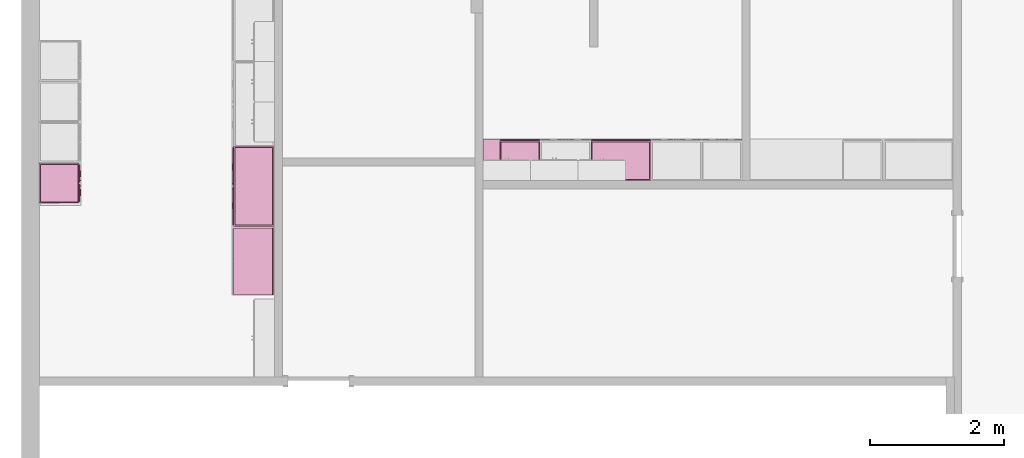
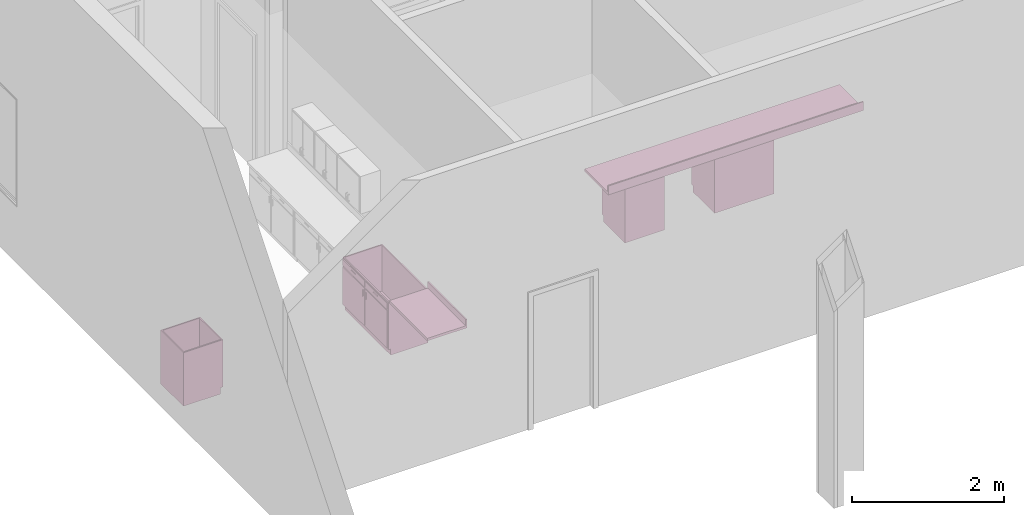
# One storey, part 38 of 45: 6 furnishings, 1 opening.
"""IFC2X3 building model written with IfcOpenShell, lengths in metres."""

from ifc_helpers import new_model, entity, si_unit, converted_unit, frame, frame_2d, origin, origin_2d_with_axis, place, context, project, spatial, polyline, circle_curve, parameter, trimmed, segment, composite_curve, rectangle, outline, extrude, face_set, surface_model, source, transform, mapped, type_object, type_shapes, element, save


model = new_model("IFC2X3")

# Units and contexts
model_context = context("Model", 3, precision=1e-09, world=origin())
plan_context = context("Plan", 3, precision=1e-09, world=origin())
ifc_project = project(units=[si_unit("LENGTHUNIT", "METRE"), si_unit("AREAUNIT", "SQUARE_METRE"), si_unit("VOLUMEUNIT", "CUBIC_METRE"), converted_unit("PLANEANGLEUNIT", "DEGREE", entity("IfcRatioMeasure", 0.01745329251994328), si_unit("PLANEANGLEUNIT", "RADIAN"), dimensions=[0, 0, 0, 0, 0, 0, 0]), si_unit("TIMEUNIT", "SECOND")], contexts=[model_context, plan_context])

# Site, building, storey, space
site_placement = place(None, origin())
site = spatial("IfcSite", under=ifc_project, at=site_placement, Name="Default", CompositionType="ELEMENT")
building_placement = place(site_placement, origin())
building = spatial("IfcBuilding", under=site, at=building_placement, CompositionType="ELEMENT")
storey_placement = place(building_placement, frame((0.0, 0.0, 4.570000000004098)))
storey = spatial("IfcBuildingStorey", under=building, at=storey_placement, Name="Second Floor", CompositionType="ELEMENT", Elevation=4.570000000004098)
space_1_placement = place(storey_placement, origin())
space_1 = spatial("IfcSpace", under=storey, at=space_1_placement, Name="2C17", CompositionType="ELEMENT", InteriorOrExteriorSpace="INTERNAL")

# Furnishing
furniture_type_1 = type_object("IfcFurnitureType", Name="1200mm", AssemblyPlace="NOTDEFINED")
shared_shape_1 = source(origin(), model_context, "Body", "SurfaceModel", [
    surface_model("IfcFaceBasedSurfaceModel", [(1.180949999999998, 0.04445000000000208, 0.86000000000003), (1.180949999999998, 0.04445000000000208, 0.09999999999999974), (0.01905000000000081, 0.04445000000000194, 0.09999999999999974), (0.01905000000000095, 0.04445000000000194, 0.86000000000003), (1.2, 0.02540000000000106, 0.8600000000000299), (0.0, 0.02540000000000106, 0.8600000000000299), (1.2, 0.02540000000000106, 0.09999999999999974), (0.0, 0.02540000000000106, 0.0999999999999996), (0.01905000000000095, 0.6063499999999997, 0.86000000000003), (0.01905000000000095, 0.6063499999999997, 0.09999999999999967), (0.01905000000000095, 0.06040000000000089, 0.09999999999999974), (0.0, 0.6254000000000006, 0.8600000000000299), (0.0, 0.6254000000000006, 0.0), (0.0, 0.06040000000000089, 0.0), (0.0, 0.06040000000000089, 0.09999999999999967), (1.180949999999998, 0.6063499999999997, 0.86000000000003), (1.180949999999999, 0.6063499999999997, 0.09999999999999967), (1.2, 0.6254000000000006, 0.8600000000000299), (1.2, 0.6254000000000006, 0.0), (1.180949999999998, 0.06040000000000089, 0.09999999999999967), (1.2, 0.06040000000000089, 0.09999999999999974), (1.2, 0.06040000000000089, 0.0), (0.3603250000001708, 0.0, 0.8155500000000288), (0.3603250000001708, 0.0, 0.8028500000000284), (0.258725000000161, 0.0, 0.8028500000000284), (0.258725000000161, 0.0, 0.8155500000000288), (0.9412750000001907, 0.0, 0.8155500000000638), (0.9412750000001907, 0.0, 0.8028500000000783), (0.8396750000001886, 0.0, 0.8028500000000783), (0.8396750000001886, 0.0, 0.8155500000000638), (0.5650750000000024, 0.0, 0.6822000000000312), (0.5650750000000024, 0.0, 0.5806000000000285), (0.5523750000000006, 0.0, 0.5806000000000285), (0.5523750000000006, 0.0, 0.6822000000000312), (0.6476249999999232, 0.0, 0.6822000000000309), (0.6476249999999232, 0.0, 0.5806000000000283), (0.6349249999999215, 0.0, 0.5806000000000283), (0.6349249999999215, 0.0, 0.6822000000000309), (0.3603250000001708, 0.01270000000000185, 0.8155500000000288), (0.3603250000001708, 0.01270000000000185, 0.8028500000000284), (0.2587250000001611, 0.01270000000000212, 0.8028500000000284), (0.2587250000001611, 0.01270000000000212, 0.8155500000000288), (0.9412750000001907, 0.01269999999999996, 0.8155500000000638), (0.9412750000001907, 0.01269999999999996, 0.8028500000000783), (0.8396750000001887, 0.01270000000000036, 0.8028500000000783), (0.8396750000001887, 0.01270000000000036, 0.8155500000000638), (0.5650750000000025, 0.01270000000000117, 0.6822000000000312), (0.5650750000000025, 0.01270000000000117, 0.5806000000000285), (0.5523750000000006, 0.01270000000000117, 0.5806000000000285), (0.5523750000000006, 0.01270000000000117, 0.6822000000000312), (0.6476249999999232, 0.0127000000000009, 0.6822000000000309), (0.6476249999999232, 0.0127000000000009, 0.5806000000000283), (0.6349249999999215, 0.0127000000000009, 0.5806000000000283), (0.6349249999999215, 0.0127000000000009, 0.6822000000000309), (0.5904749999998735, 0.01270000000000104, 0.8409500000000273), (0.5904749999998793, 0.01270000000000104, 0.7393500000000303), (0.01905000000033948, 0.0127000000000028, 0.7393500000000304), (0.01905000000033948, 0.0127000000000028, 0.8409500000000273), (1.180950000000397, 0.01269999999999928, 0.8409500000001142), (1.180950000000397, 0.01269999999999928, 0.7393500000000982), (0.6095249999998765, 0.01270000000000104, 0.7393500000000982), (0.6095249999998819, 0.01270000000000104, 0.8409500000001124), (0.5904749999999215, 0.01270000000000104, 0.7203000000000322), (0.5904749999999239, 0.01270000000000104, 0.1190499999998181), (0.01905000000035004, 0.0127000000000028, 0.1190499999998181), (0.01905000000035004, 0.0127000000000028, 0.7203000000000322), (1.180950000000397, 0.01269999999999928, 0.7203000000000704), (1.180950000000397, 0.01269999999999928, 0.1190499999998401), (0.6095249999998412, 0.01270000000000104, 0.1190499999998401), (0.6095249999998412, 0.01270000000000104, 0.7203000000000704), (0.5904749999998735, 0.02540000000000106, 0.8409500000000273), (0.5904749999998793, 0.02540000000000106, 0.7393500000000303), (0.01905000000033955, 0.02540000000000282, 0.7393500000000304), (0.01905000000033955, 0.02540000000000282, 0.8409500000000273), (1.180950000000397, 0.02539999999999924, 0.8409500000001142), (1.180950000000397, 0.02539999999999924, 0.7393500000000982), (0.6095249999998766, 0.025400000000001, 0.7393500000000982), (0.6095249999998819, 0.025400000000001, 0.8409500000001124), (0.5904749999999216, 0.02540000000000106, 0.7203000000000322), (0.5904749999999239, 0.02540000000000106, 0.1190499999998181), (0.01905000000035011, 0.02540000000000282, 0.1190499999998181), (0.01905000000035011, 0.02540000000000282, 0.7203000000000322), (1.180950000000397, 0.02539999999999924, 0.7203000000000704), (1.180950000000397, 0.02539999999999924, 0.1190499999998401), (0.6095249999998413, 0.025400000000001, 0.1190499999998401), (0.6095249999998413, 0.025400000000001, 0.7203000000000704), (1.180949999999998, 0.6063499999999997, 0.1190499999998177), (1.180949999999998, 0.04445000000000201, 0.1190499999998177), (0.01905000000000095, 0.04445000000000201, 0.1190499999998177), (0.01905000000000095, 0.6063499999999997, 0.1190499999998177), (1.180949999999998, 0.6063499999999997, 0.09999999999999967), (1.180949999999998, 0.04445000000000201, 0.09999999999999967), (0.01905000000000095, 0.04445000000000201, 0.09999999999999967)], [face_set([[[0, 1, 2, 3]], [[0, 4, 5, 3]], [[4, 6, 7, 5]], [[2, 1, 6, 7]], [[3, 8, 9, 10, 2]], [[5, 11, 8, 3]], [[7, 5, 11, 12, 13, 14]], [[2, 7, 14, 10]], [[8, 15, 16, 9]], [[11, 17, 15, 8]], [[12, 11, 17, 18]], [[1, 19, 16, 15, 0]], [[0, 15, 17, 4]], [[4, 6, 20, 21, 18, 17]], [[6, 1, 19, 20]], [[10, 9, 16, 19]], [[18, 21, 13, 12]], [[13, 14, 10, 19, 20, 21]]]), face_set([[[22, 23, 24, 25]], [[26, 27, 28, 29]], [[30, 31, 32, 33]], [[34, 35, 36, 37]], [[38, 39, 40, 41]], [[42, 43, 44, 45]], [[46, 47, 48, 49]], [[50, 51, 52, 53]], [[25, 41, 38, 22]], [[24, 40, 41, 25]], [[23, 24, 40, 39]], [[22, 23, 39, 38]], [[29, 45, 42, 26]], [[28, 44, 45, 29]], [[27, 28, 44, 43]], [[26, 27, 43, 42]], [[33, 49, 46, 30]], [[32, 48, 49, 33]], [[31, 32, 48, 47]], [[30, 31, 47, 46]], [[37, 53, 50, 34]], [[36, 52, 53, 37]], [[35, 36, 52, 51]], [[34, 35, 51, 50]]]), face_set([[[54, 55, 56, 57]], [[58, 59, 60, 61]], [[62, 63, 64, 65]], [[66, 67, 68, 69]], [[70, 71, 72, 73]], [[74, 75, 76, 77]], [[78, 79, 80, 81]], [[82, 83, 84, 85]], [[57, 73, 70, 54]], [[56, 57, 73, 72]], [[55, 56, 72, 71]], [[54, 55, 71, 70]], [[61, 77, 74, 58]], [[60, 76, 77, 61]], [[59, 60, 76, 75]], [[58, 59, 75, 74]], [[65, 81, 78, 62]], [[64, 65, 81, 80]], [[63, 64, 80, 79]], [[62, 63, 79, 78]], [[69, 85, 82, 66]], [[68, 84, 85, 69]], [[67, 68, 84, 83]], [[66, 67, 83, 82]]]), face_set([[[86, 87, 88, 89]], [[90, 91, 92, 9]], [[89, 86, 90, 9]], [[88, 89, 9, 92]], [[87, 91, 92, 88]], [[86, 87, 91, 90]]])]),
])
type_shapes(furniture_type_1, [shared_shape_1])
furnishing_1_placement = place(space_1_placement, frame((-44.23500000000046, 41.97288125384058, 0.0), z_axis=(0.0, 0.0, 1.0), x_axis=(0.0, -1.0, 0.0)))
element("IfcFurnishingElement", 1, at=furnishing_1_placement, inside=space_1, type_object=furniture_type_1, Name="M_Base Cabinet-Double Door & 2 Drawer:1200mm:1200mm", ObjectType="1200mm", context=model_context, shape_type="MappedRepresentation", body=[
    mapped(shared_shape_1, transform((0.0, 0.0, 0.0), scale=1.0)),
])

# Space
space_2_placement = place(storey_placement, origin())
space_2 = spatial("IfcSpace", under=storey, at=space_2_placement, Name="2C12", CompositionType="ELEMENT", InteriorOrExteriorSpace="INTERNAL")

# Furnishings
furniture_type_2 = type_object("IfcFurnitureType", Name="600mm", AssemblyPlace="NOTDEFINED")
shared_shape_2 = source(origin(), model_context, "Body", "SurfaceModel", [
    surface_model("IfcFaceBasedSurfaceModel", [(0.5809499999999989, 0.0444500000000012, 0.86000000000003), (0.5809499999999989, 0.0444500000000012, 0.09999999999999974), (0.01905000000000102, 0.0444500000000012, 0.09999999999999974), (0.01905000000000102, 0.0444500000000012, 0.86000000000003), (0.5999999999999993, 0.02540000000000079, 0.8600000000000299), (0.0, 0.02540000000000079, 0.8600000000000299), (0.5999999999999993, 0.02540000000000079, 0.09999999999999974), (0.0, 0.02540000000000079, 0.0999999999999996), (0.01905000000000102, 0.6063499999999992, 0.86000000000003), (0.01905000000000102, 0.6063499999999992, 0.09999999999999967), (0.01905000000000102, 0.06040000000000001, 0.09999999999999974), (0.0, 0.6253999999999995, 0.8600000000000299), (0.0, 0.6254000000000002, 0.0), (0.0, 0.06040000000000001, 0.0), (0.0, 0.06040000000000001, 0.09999999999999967), (0.5809499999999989, 0.6063499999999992, 0.86000000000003), (0.5809499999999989, 0.6063499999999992, 0.09999999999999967), (0.5999999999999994, 0.6253999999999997, 0.8600000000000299), (0.5999999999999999, 0.6253999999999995, 0.0), (0.5809499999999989, 0.06040000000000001, 0.09999999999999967), (0.5999999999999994, 0.06040000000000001, 0.09999999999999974), (0.5999999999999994, 0.06040000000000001, 0.0), (0.2103250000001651, 0.0, 0.8155500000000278), (0.2103250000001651, 0.0, 0.8028500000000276), (0.1087250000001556, 0.0, 0.8028500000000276), (0.1087250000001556, 0.0, 0.8155500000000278), (0.4912750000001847, 0.0, 0.8155500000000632), (0.4912750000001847, 0.0, 0.8028500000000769), (0.3896750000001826, 0.0, 0.8028500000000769), (0.3896750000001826, 0.0, 0.8155500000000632), (0.2650750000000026, 0.0, 0.6822000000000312), (0.2650750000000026, 0.0, 0.5806000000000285), (0.2523750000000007, 0.0, 0.5806000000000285), (0.2523750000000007, 0.0, 0.6822000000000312), (0.3476249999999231, 0.0, 0.6822000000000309), (0.3476249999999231, 0.0, 0.5806000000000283), (0.3349249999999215, 0.0, 0.5806000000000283), (0.3349249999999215, 0.0, 0.6822000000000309), (0.2103250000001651, 0.0127000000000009, 0.8155500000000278), (0.2103250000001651, 0.0127000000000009, 0.8028500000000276), (0.1087250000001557, 0.01270000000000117, 0.8028500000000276), (0.1087250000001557, 0.01270000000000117, 0.8155500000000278), (0.4912750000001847, 0.01269999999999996, 0.8155500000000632), (0.4912750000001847, 0.01269999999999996, 0.8028500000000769), (0.3896750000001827, 0.01270000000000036, 0.8028500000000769), (0.3896750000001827, 0.01270000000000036, 0.8155500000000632), (0.2650750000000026, 0.01270000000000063, 0.6822000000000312), (0.2650750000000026, 0.01270000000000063, 0.5806000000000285), (0.2523750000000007, 0.01270000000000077, 0.5806000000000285), (0.2523750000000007, 0.01270000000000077, 0.6822000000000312), (0.3476249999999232, 0.0127000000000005, 0.6822000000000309), (0.3476249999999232, 0.0127000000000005, 0.5806000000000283), (0.3349249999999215, 0.0127000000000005, 0.5806000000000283), (0.3349249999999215, 0.0127000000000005, 0.6822000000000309), (0.2904749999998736, 0.01270000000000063, 0.8409500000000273), (0.2904749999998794, 0.01270000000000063, 0.7393500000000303), (0.01905000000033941, 0.01270000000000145, 0.7393500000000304), (0.01905000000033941, 0.01270000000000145, 0.8409500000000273), (0.5809500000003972, 0.01269999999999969, 0.8409500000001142), (0.5809500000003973, 0.01269999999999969, 0.7393500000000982), (0.3095249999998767, 0.0127000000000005, 0.7393500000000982), (0.309524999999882, 0.0127000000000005, 0.8409500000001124), (0.2904749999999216, 0.01270000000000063, 0.7203000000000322), (0.290474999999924, 0.01270000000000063, 0.1190499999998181), (0.01905000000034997, 0.01270000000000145, 0.1190499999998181), (0.01905000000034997, 0.01270000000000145, 0.7203000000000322), (0.5809500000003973, 0.01269999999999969, 0.7203000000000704), (0.5809500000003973, 0.01269999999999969, 0.1190499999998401), (0.3095249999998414, 0.0127000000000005, 0.1190499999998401), (0.3095249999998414, 0.0127000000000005, 0.7203000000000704), (0.2904749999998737, 0.02540000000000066, 0.8409500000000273), (0.2904749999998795, 0.02540000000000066, 0.7393500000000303), (0.01905000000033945, 0.02540000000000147, 0.7393500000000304), (0.01905000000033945, 0.02540000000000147, 0.8409500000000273), (0.5809500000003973, 0.02539999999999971, 0.8409500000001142), (0.5809500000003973, 0.02539999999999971, 0.7393500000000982), (0.3095249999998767, 0.02540000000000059, 0.7393500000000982), (0.309524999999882, 0.02540000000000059, 0.8409500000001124), (0.2904749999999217, 0.02540000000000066, 0.7203000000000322), (0.290474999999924, 0.02540000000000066, 0.1190499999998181), (0.01905000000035, 0.02540000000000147, 0.1190499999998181), (0.01905000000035, 0.02540000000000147, 0.7203000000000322), (0.5809500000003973, 0.02539999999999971, 0.7203000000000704), (0.5809500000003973, 0.02539999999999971, 0.1190499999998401), (0.3095249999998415, 0.02540000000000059, 0.1190499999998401), (0.3095249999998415, 0.02540000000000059, 0.7203000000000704), (0.580949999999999, 0.6063499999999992, 0.1190499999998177), (0.580949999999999, 0.04445000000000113, 0.1190499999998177), (0.01905000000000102, 0.04445000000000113, 0.1190499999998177), (0.01905000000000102, 0.6063499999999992, 0.1190499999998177), (0.580949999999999, 0.6063499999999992, 0.09999999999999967), (0.580949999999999, 0.04445000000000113, 0.09999999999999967), (0.01905000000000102, 0.04445000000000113, 0.09999999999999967)], [face_set([[[0, 1, 2, 3]], [[0, 4, 5, 3]], [[4, 6, 7, 5]], [[2, 1, 6, 7]], [[3, 8, 9, 10, 2]], [[5, 11, 8, 3]], [[7, 5, 11, 12, 13, 14]], [[2, 7, 14, 10]], [[8, 15, 16, 9]], [[11, 17, 15, 8]], [[12, 11, 17, 18]], [[1, 19, 16, 15, 0]], [[0, 15, 17, 4]], [[4, 6, 20, 21, 18, 17]], [[6, 1, 19, 20]], [[10, 9, 16, 19]], [[18, 21, 13, 12]], [[13, 14, 10, 19, 20, 21]]]), face_set([[[22, 23, 24, 25]], [[26, 27, 28, 29]], [[30, 31, 32, 33]], [[34, 35, 36, 37]], [[38, 39, 40, 41]], [[42, 43, 44, 45]], [[46, 47, 48, 49]], [[50, 51, 52, 53]], [[25, 41, 38, 22]], [[24, 40, 41, 25]], [[23, 24, 40, 39]], [[22, 23, 39, 38]], [[29, 45, 42, 26]], [[28, 44, 45, 29]], [[27, 28, 44, 43]], [[26, 27, 43, 42]], [[33, 49, 46, 30]], [[32, 48, 49, 33]], [[31, 32, 48, 47]], [[30, 31, 47, 46]], [[37, 53, 50, 34]], [[36, 52, 53, 37]], [[35, 36, 52, 51]], [[34, 35, 51, 50]]]), face_set([[[54, 55, 56, 57]], [[58, 59, 60, 61]], [[62, 63, 64, 65]], [[66, 67, 68, 69]], [[70, 71, 72, 73]], [[74, 75, 76, 77]], [[78, 79, 80, 81]], [[82, 83, 84, 85]], [[57, 73, 70, 54]], [[56, 57, 73, 72]], [[55, 56, 72, 71]], [[54, 55, 71, 70]], [[61, 77, 74, 58]], [[60, 76, 77, 61]], [[59, 60, 76, 75]], [[58, 59, 75, 74]], [[65, 81, 78, 62]], [[64, 65, 81, 80]], [[63, 64, 80, 79]], [[62, 63, 79, 78]], [[69, 85, 82, 66]], [[68, 84, 85, 69]], [[67, 68, 84, 83]], [[66, 67, 83, 82]]]), face_set([[[86, 87, 88, 89]], [[90, 91, 92, 9]], [[89, 86, 90, 9]], [[88, 89, 9, 92]], [[87, 91, 92, 88]], [[86, 87, 91, 90]]])]),
])
type_shapes(furniture_type_2, [shared_shape_2])
furnishing_2_placement = place(space_2_placement, frame((-39.62400000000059, 42.08383871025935, 0.0), z_axis=(0.0, 0.0, 1.0), x_axis=(-1.0, 0.0, 0.0)))
element("IfcFurnishingElement", 2, at=furnishing_2_placement, inside=space_2, type_object=furniture_type_2, Name="M_Base Cabinet-Double Door & 2 Drawer:600mm:600mm", ObjectType="600mm", context=model_context, shape_type="MappedRepresentation", body=[
    mapped(shared_shape_2, transform((0.0, 0.0, 0.0), scale=1.0)),
])
furnishing_3_placement = place(space_1_placement, frame((-46.49500000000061, 41.12041136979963, 0.0), z_axis=(0.0, 0.0, 1.0), x_axis=(0.0, 1.0, 0.0)))
element("IfcFurnishingElement", 3, at=furnishing_3_placement, inside=space_1, type_object=furniture_type_2, Name="M_Base Cabinet-Double Door & 2 Drawer:600mm:600mm", ObjectType="600mm", context=model_context, shape_type="MappedRepresentation", body=[
    mapped(shared_shape_2, transform((0.0, 0.0, 0.0), scale=1.0)),
])
furniture_type_3 = type_object("IfcFurnitureType", Name="900mm", AssemblyPlace="NOTDEFINED")
shared_shape_3 = source(origin(), model_context, "Body", "SurfaceModel", [
    surface_model("IfcFaceBasedSurfaceModel", [(0.8809499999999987, 0.04445000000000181, 0.86000000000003), (0.8809499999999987, 0.04445000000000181, 0.09999999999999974), (0.01905000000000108, 0.04445000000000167, 0.09999999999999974), (0.01905000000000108, 0.04445000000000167, 0.86000000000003), (0.8999999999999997, 0.02540000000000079, 0.8600000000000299), (0.0, 0.02540000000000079, 0.8600000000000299), (0.8999999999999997, 0.02540000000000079, 0.09999999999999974), (0.0, 0.02540000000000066, 0.0999999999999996), (0.01905000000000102, 0.6063499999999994, 0.86000000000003), (0.01905000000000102, 0.6063499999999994, 0.09999999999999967), (0.01905000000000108, 0.06040000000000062, 0.09999999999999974), (0.0, 0.6254000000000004, 0.8600000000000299), (0.0, 0.6254000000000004, 0.0), (0.0, 0.06040000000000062, 0.0), (0.0, 0.06040000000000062, 0.09999999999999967), (0.8809499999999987, 0.6063499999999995, 0.86000000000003), (0.8809499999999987, 0.6063499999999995, 0.09999999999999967), (0.8999999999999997, 0.6254000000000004, 0.8600000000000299), (0.8999999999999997, 0.6254000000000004, 0.0), (0.8809499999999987, 0.06040000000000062, 0.09999999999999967), (0.8999999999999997, 0.06040000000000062, 0.09999999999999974), (0.8999999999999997, 0.06040000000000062, 0.0), (0.2853250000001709, 0.0, 0.8155500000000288), (0.2853250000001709, 0.0, 0.8028500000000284), (0.1837250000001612, 0.0, 0.8028500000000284), (0.1837250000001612, 0.0, 0.8155500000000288), (0.716275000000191, 0.0, 0.8155500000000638), (0.716275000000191, 0.0, 0.8028500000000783), (0.6146750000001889, 0.0, 0.8028500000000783), (0.6146750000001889, 0.0, 0.8155500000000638), (0.4150750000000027, 0.0, 0.6822000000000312), (0.4150750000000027, 0.0, 0.5806000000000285), (0.4023750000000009, 0.0, 0.5806000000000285), (0.4023750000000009, 0.0, 0.6822000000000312), (0.4976249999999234, 0.0, 0.6822000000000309), (0.4976249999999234, 0.0, 0.5806000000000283), (0.4849249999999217, 0.0, 0.5806000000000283), (0.4849249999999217, 0.0, 0.6822000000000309), (0.285325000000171, 0.01270000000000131, 0.8155500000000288), (0.285325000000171, 0.01270000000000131, 0.8028500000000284), (0.1837250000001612, 0.01270000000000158, 0.8028500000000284), (0.1837250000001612, 0.01270000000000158, 0.8155500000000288), (0.7162750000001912, 0.01269999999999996, 0.8155500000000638), (0.7162750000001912, 0.01269999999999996, 0.8028500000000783), (0.6146750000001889, 0.01270000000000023, 0.8028500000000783), (0.6146750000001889, 0.01270000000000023, 0.8155500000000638), (0.4150750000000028, 0.0127000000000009, 0.6822000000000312), (0.4150750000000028, 0.0127000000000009, 0.5806000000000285), (0.4023750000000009, 0.0127000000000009, 0.5806000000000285), (0.4023750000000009, 0.0127000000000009, 0.6822000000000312), (0.4976249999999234, 0.01270000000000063, 0.6822000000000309), (0.4976249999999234, 0.01270000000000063, 0.5806000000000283), (0.4849249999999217, 0.01270000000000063, 0.5806000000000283), (0.4849249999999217, 0.01270000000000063, 0.6822000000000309), (0.4404749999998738, 0.01270000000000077, 0.8409500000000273), (0.4404749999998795, 0.01270000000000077, 0.7393500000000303), (0.01905000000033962, 0.01270000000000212, 0.7393500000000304), (0.01905000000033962, 0.01270000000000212, 0.8409500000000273), (0.8809500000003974, 0.01269999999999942, 0.8409500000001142), (0.8809500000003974, 0.01269999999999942, 0.7393500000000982), (0.4595249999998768, 0.01270000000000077, 0.7393500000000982), (0.4595249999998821, 0.01270000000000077, 0.8409500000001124), (0.4404749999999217, 0.01270000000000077, 0.7203000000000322), (0.4404749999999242, 0.01270000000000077, 0.1190499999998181), (0.01905000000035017, 0.01270000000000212, 0.1190499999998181), (0.01905000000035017, 0.01270000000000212, 0.7203000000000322), (0.8809500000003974, 0.01269999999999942, 0.7203000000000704), (0.8809500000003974, 0.01269999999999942, 0.1190499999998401), (0.4595249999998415, 0.01270000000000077, 0.1190499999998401), (0.4595249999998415, 0.01270000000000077, 0.7203000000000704), (0.4404749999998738, 0.02540000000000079, 0.8409500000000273), (0.4404749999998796, 0.02540000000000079, 0.7393500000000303), (0.01905000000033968, 0.02540000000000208, 0.7393500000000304), (0.01905000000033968, 0.02540000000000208, 0.8409500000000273), (0.8809500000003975, 0.02539999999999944, 0.8409500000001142), (0.8809500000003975, 0.02539999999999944, 0.7393500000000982), (0.4595249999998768, 0.02540000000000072, 0.7393500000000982), (0.4595249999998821, 0.02540000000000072, 0.8409500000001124), (0.4404749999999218, 0.02540000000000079, 0.7203000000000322), (0.4404749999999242, 0.02540000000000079, 0.1190499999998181), (0.01905000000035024, 0.02540000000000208, 0.1190499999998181), (0.01905000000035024, 0.02540000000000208, 0.7203000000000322), (0.8809500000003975, 0.02539999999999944, 0.7203000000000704), (0.8809500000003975, 0.02539999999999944, 0.1190499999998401), (0.4595249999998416, 0.02540000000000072, 0.1190499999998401), (0.4595249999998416, 0.02540000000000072, 0.7203000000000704), (0.8809499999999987, 0.6063499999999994, 0.1190499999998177), (0.8809499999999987, 0.04445000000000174, 0.1190499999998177), (0.01905000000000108, 0.04445000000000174, 0.1190499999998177), (0.01905000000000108, 0.6063499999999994, 0.1190499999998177), (0.8809499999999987, 0.6063499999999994, 0.09999999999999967), (0.8809499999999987, 0.04445000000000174, 0.09999999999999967), (0.01905000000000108, 0.04445000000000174, 0.09999999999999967), (0.01905000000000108, 0.6063499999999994, 0.09999999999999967)], [face_set([[[0, 1, 2, 3]], [[0, 4, 5, 3]], [[4, 6, 7, 5]], [[2, 1, 6, 7]], [[3, 8, 9, 10, 2]], [[5, 11, 8, 3]], [[7, 5, 11, 12, 13, 14]], [[2, 7, 14, 10]], [[8, 15, 16, 9]], [[11, 17, 15, 8]], [[12, 11, 17, 18]], [[1, 19, 16, 15, 0]], [[0, 15, 17, 4]], [[4, 6, 20, 21, 18, 17]], [[6, 1, 19, 20]], [[10, 9, 16, 19]], [[18, 21, 13, 12]], [[13, 14, 10, 19, 20, 21]]]), face_set([[[22, 23, 24, 25]], [[26, 27, 28, 29]], [[30, 31, 32, 33]], [[34, 35, 36, 37]], [[38, 39, 40, 41]], [[42, 43, 44, 45]], [[46, 47, 48, 49]], [[50, 51, 52, 53]], [[25, 41, 38, 22]], [[24, 40, 41, 25]], [[23, 24, 40, 39]], [[22, 23, 39, 38]], [[29, 45, 42, 26]], [[28, 44, 45, 29]], [[27, 28, 44, 43]], [[26, 27, 43, 42]], [[33, 49, 46, 30]], [[32, 48, 49, 33]], [[31, 32, 48, 47]], [[30, 31, 47, 46]], [[37, 53, 50, 34]], [[36, 52, 53, 37]], [[35, 36, 52, 51]], [[34, 35, 51, 50]]]), face_set([[[54, 55, 56, 57]], [[58, 59, 60, 61]], [[62, 63, 64, 65]], [[66, 67, 68, 69]], [[70, 71, 72, 73]], [[74, 75, 76, 77]], [[78, 79, 80, 81]], [[82, 83, 84, 85]], [[57, 73, 70, 54]], [[56, 57, 73, 72]], [[55, 56, 72, 71]], [[54, 55, 71, 70]], [[61, 77, 74, 58]], [[60, 76, 77, 61]], [[59, 60, 76, 75]], [[58, 59, 75, 74]], [[65, 81, 78, 62]], [[64, 65, 81, 80]], [[63, 64, 80, 79]], [[62, 63, 79, 78]], [[69, 85, 82, 66]], [[68, 84, 85, 69]], [[67, 68, 84, 83]], [[66, 67, 83, 82]]]), face_set([[[86, 87, 88, 89]], [[90, 91, 92, 93]], [[89, 86, 90, 93]], [[88, 89, 93, 92]], [[87, 91, 92, 88]], [[86, 87, 91, 90]]])]),
])
type_shapes(furniture_type_3, [shared_shape_3])
furnishing_4_placement = place(space_2_placement, frame((-37.9640000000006, 42.08383871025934, 0.0), z_axis=(0.0, 0.0, 1.0), x_axis=(-1.0, 0.0, 0.0)))
element("IfcFurnishingElement", 4, at=furnishing_4_placement, inside=space_2, type_object=furniture_type_3, Name="M_Base Cabinet-Double Door & 2 Drawer:900mm:900mm", ObjectType="900mm", context=model_context, shape_type="MappedRepresentation", body=[
    mapped(shared_shape_3, transform((0.0, 0.0, 0.0), scale=1.0)),
])

# Furnishing, opening
furniture_type_4 = type_object("IfcFurnitureType", Name="600mm Depth", AssemblyPlace="NOTDEFINED")
shared_shape_4 = source(origin(), model_context, "Body", "SweptSolid", [
    extrude(outline(polyline([(-0.0605333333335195, -0.2146833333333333), (0.08106666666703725, -0.2146833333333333), (0.08106666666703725, -0.1956333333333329), (-0.02053333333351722, -0.1956333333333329), (-0.02053333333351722, 0.4103166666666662), (-0.0605333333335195, 0.4103166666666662), (-0.0605333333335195, -0.2146833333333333)])), frame((-1.200462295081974, -0.2146833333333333, 0.920533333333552), z_axis=(1.0, 0.0, 0.0), x_axis=(0.0, 0.0, 1.0)), (0.0, 0.0, 1.0), 3.871999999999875),
])
type_shapes(furniture_type_4, [shared_shape_4])
furnishing_5_placement = place(space_2_placement, frame((-37.80446229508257, 41.4584387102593, 0.0), z_axis=(0.0, 0.0, 1.0), x_axis=(-1.0, 0.0, 0.0)))
furnishing_5 = element("IfcFurnishingElement", 5, at=furnishing_5_placement, inside=space_2, type_object=furniture_type_4, Name="M_Counter Top w Sink Hole:600mm Depth:600mm Depth", ObjectType="600mm Depth", context=model_context, shape_type="MappedRepresentation", body=[
    mapped(shared_shape_4, transform((0.0, 0.0, 0.0), scale=1.0)),
])
opening_placement = place(space_2_placement, frame((-37.80446229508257, 41.4584387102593, 0.0), z_axis=(0.0, 0.0, 1.0), x_axis=(-1.0, 0.0, 0.0)))
element("IfcOpeningElement", 6, at=opening_placement, cuts=furnishing_5, Name="M_Counter Top w Sink Hole:600mm Depth:600mm Depth:1", ObjectType="Opening", context=model_context, shape_type="SweptSolid", body=[
    extrude(outline(composite_curve([segment(polyline([(-0.255400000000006, -0.201700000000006), (0.2553999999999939, -0.2017000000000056)]), True, "CONTINUOUS"), segment(trimmed(circle_curve(frame_2d((0.2553999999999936, -0.150899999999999), x_axis=(1.0, 0.0)), 0.05080000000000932), [parameter(270.0000000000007)], [parameter(1.068666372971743e-12)], True, "PARAMETER"), True, "CONTINUOUS"), segment(polyline([(0.3062000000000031, -0.1508999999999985), (0.3062000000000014, 0.1509000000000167)]), True, "CONTINUOUS"), segment(trimmed(circle_curve(frame_2d((0.2554000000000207, 0.1509000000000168), x_axis=(1.0, 0.0)), 0.05079999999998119), [parameter(359.9999999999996)], [parameter(90.00000000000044)], True, "PARAMETER"), True, "CONTINUOUS"), segment(polyline([(0.2554000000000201, 0.2016999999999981), (-0.2554000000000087, 0.2016999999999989)]), True, "CONTINUOUS"), segment(trimmed(circle_curve(frame_2d((-0.2554000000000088, 0.1509000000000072), x_axis=(1.0, 0.0)), 0.0507999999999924), [parameter(90.00000000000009)], [parameter(179.9999999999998)], True, "PARAMETER"), True, "CONTINUOUS"), segment(polyline([(-0.3062000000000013, 0.150900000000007), (-0.3062000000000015, -0.1509000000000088)]), True, "CONTINUOUS"), segment(trimmed(circle_curve(frame_2d((-0.2554000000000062, -0.1509000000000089), x_axis=(1.0, 0.0)), 0.05079999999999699), [parameter(179.9999999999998)], [parameter(269.9999999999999)], True, "PARAMETER"), True, "CONTINUOUS")], self_intersect=False)), frame((0.1702027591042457, 0.28900000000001, -3.670000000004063), z_axis=(0.0, 0.0, -1.0), x_axis=(-1.0, 0.0, 0.0)), (0.0, 0.0, 1.0), 0.04000000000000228),
])

# Furnishing
furniture_type_5 = type_object("IfcFurnitureType", Name="600mm Depth", AssemblyPlace="NOTDEFINED")
shared_shape_5 = source(origin(), model_context, "Body", "SweptSolid", [
    extrude(rectangle(XDim=0.01905000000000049, YDim=0.9999999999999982, at=origin_2d_with_axis()), frame((-0.7004622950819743, -0.009525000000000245, 0.9000000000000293), z_axis=(0.0, 0.0, 1.0), x_axis=(0.0, -1.0, 0.0)), (0.0, 0.0, 1.0), 0.1016000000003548),
    extrude(rectangle(XDim=0.9999999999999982, YDim=0.5999999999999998, at=origin_2d_with_axis()), frame((-0.7004622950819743, -0.2999999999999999, 0.8600000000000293), z_axis=(0.0, 0.0, 1.0), x_axis=(-1.0, 0.0, 0.0)), (0.0, 0.0, 1.0), 0.04000000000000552),
])
type_shapes(furniture_type_5, [shared_shape_5])
furnishing_6_placement = place(space_1_placement, frame((-43.60960000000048, 39.54962118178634, 0.0), z_axis=(0.0, 0.0, 1.0), x_axis=(0.0, -1.0, 0.0)))
element("IfcFurnishingElement", 7, at=furnishing_6_placement, inside=space_1, type_object=furniture_type_5, Name="M_Counter Top:600mm Depth:600mm Depth", ObjectType="600mm Depth", context=model_context, shape_type="MappedRepresentation", body=[
    mapped(shared_shape_5, transform((0.0, 0.0, 0.0), scale=1.0)),
])

save(model, "model.ifc")
